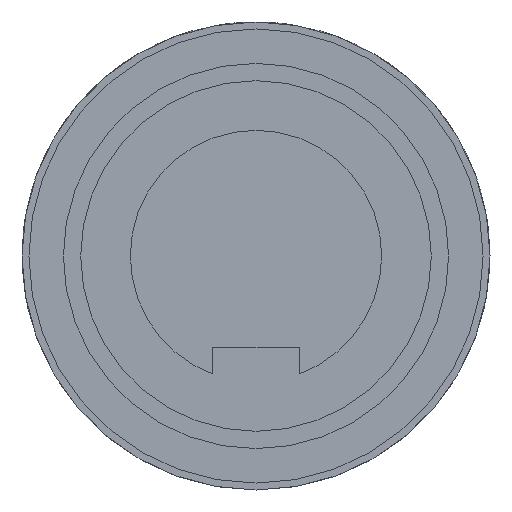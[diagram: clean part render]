
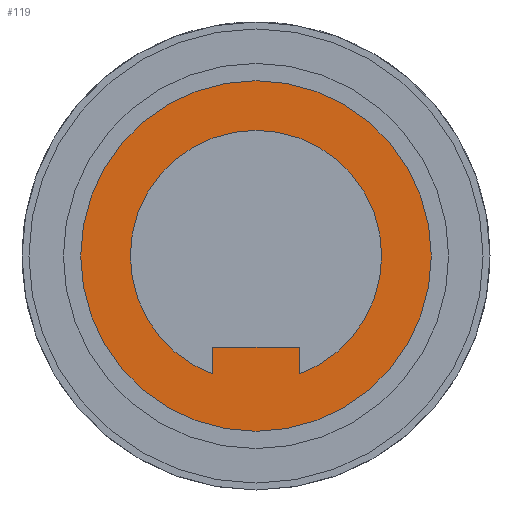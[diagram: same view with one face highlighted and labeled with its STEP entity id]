
A CAD part, front view. The second image highlights one B-rep face of the part: STEP entity #119.
In plain terms, the highlighted planar face has unit normal (0, -1, 0).
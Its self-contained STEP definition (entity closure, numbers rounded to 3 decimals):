
#48 = VECTOR ( 'NONE', #1929, 1000. ) ;
#67 = DIRECTION ( 'NONE',  ( 0., 0., 1. ) ) ;
#74 = AXIS2_PLACEMENT_3D ( 'NONE', #1285, #363, #1436 ) ;
#106 = DIRECTION ( 'NONE',  ( 0., 1., 0. ) ) ;
#114 = CARTESIAN_POINT ( 'NONE',  ( 0., 7., 0. ) ) ;
#115 = VERTEX_POINT ( 'NONE', #1439 ) ;
#119 = ADVANCED_FACE ( 'NONE', ( #249, #1424 ), #989, .T. ) ;
#236 = CARTESIAN_POINT ( 'NONE',  ( 2.5, 7., -5.25 ) ) ;
#249 = FACE_BOUND ( 'NONE', #1648, .T. ) ;
#252 = CIRCLE ( 'NONE', #74, 7.25 ) ;
#289 = DIRECTION ( 'NONE',  ( 0., 0., 1. ) ) ;
#296 = CIRCLE ( 'NONE', #1255, 7.25 ) ;
#316 = VERTEX_POINT ( 'NONE', #1818 ) ;
#327 = EDGE_CURVE ( 'NONE', #1673, #1730, #252, .T. ) ;
#345 = CIRCLE ( 'NONE', #687, 10.113 ) ;
#363 = DIRECTION ( 'NONE',  ( 0., 1., 0. ) ) ;
#458 = CARTESIAN_POINT ( 'NONE',  ( -2.5, 7., -6.805 ) ) ;
#486 = VERTEX_POINT ( 'NONE', #1559 ) ;
#521 = DIRECTION ( 'NONE',  ( 0., 0., -1. ) ) ;
#539 = VERTEX_POINT ( 'NONE', #1821 ) ;
#567 = EDGE_CURVE ( 'NONE', #539, #1673, #1507, .T. ) ;
#568 = VECTOR ( 'NONE', #67, 1000. ) ;
#571 = DIRECTION ( 'NONE',  ( 0., 1., 0. ) ) ;
#582 = LINE ( 'NONE', #1068, #48 ) ;
#634 = CARTESIAN_POINT ( 'NONE',  ( 0., 7., 7.25 ) ) ;
#662 = ORIENTED_EDGE ( 'NONE', *, *, #1378, .F. ) ;
#687 = AXIS2_PLACEMENT_3D ( 'NONE', #114, #1211, #289 ) ;
#704 = VECTOR ( 'NONE', #1106, 1000. ) ;
#801 = AXIS2_PLACEMENT_3D ( 'NONE', #1287, #1448, #521 ) ;
#817 = ORIENTED_EDGE ( 'NONE', *, *, #933, .T. ) ;
#924 = EDGE_LOOP ( 'NONE', ( #1430, #662 ) ) ;
#933 = EDGE_CURVE ( 'NONE', #115, #539, #582, .T. ) ;
#947 = CARTESIAN_POINT ( 'NONE',  ( -2.5, 7., -7.071 ) ) ;
#989 = PLANE ( 'NONE',  #801 ) ;
#1050 = ORIENTED_EDGE ( 'NONE', *, *, #567, .T. ) ;
#1053 = CARTESIAN_POINT ( 'NONE',  ( 0., 7., 0. ) ) ;
#1068 = CARTESIAN_POINT ( 'NONE',  ( 0., 7., -5.25 ) ) ;
#1079 = EDGE_CURVE ( 'NONE', #1730, #316, #296, .T. ) ;
#1091 = EDGE_CURVE ( 'NONE', #1167, #486, #345, .T. ) ;
#1106 = DIRECTION ( 'NONE',  ( 0., 0., -1. ) ) ;
#1167 = VERTEX_POINT ( 'NONE', #1670 ) ;
#1207 = DIRECTION ( 'NONE',  ( 0., 0., 1. ) ) ;
#1211 = DIRECTION ( 'NONE',  ( 0., 1., 0. ) ) ;
#1226 = AXIS2_PLACEMENT_3D ( 'NONE', #1493, #571, #1636 ) ;
#1255 = AXIS2_PLACEMENT_3D ( 'NONE', #1053, #106, #1207 ) ;
#1276 = EDGE_CURVE ( 'NONE', #316, #115, #1688, .T. ) ;
#1285 = CARTESIAN_POINT ( 'NONE',  ( 0., 7., 0. ) ) ;
#1287 = CARTESIAN_POINT ( 'NONE',  ( 0., 7., 8.681 ) ) ;
#1378 = EDGE_CURVE ( 'NONE', #486, #1167, #1917, .T. ) ;
#1424 = FACE_OUTER_BOUND ( 'NONE', #924, .T. ) ;
#1430 = ORIENTED_EDGE ( 'NONE', *, *, #1091, .F. ) ;
#1436 = DIRECTION ( 'NONE',  ( 0., 0., 1. ) ) ;
#1439 = CARTESIAN_POINT ( 'NONE',  ( 2.5, 7., -5.25 ) ) ;
#1447 = ORIENTED_EDGE ( 'NONE', *, *, #327, .T. ) ;
#1448 = DIRECTION ( 'NONE',  ( 0., -1., 0. ) ) ;
#1493 = CARTESIAN_POINT ( 'NONE',  ( 0., 7., 0. ) ) ;
#1507 = LINE ( 'NONE', #947, #704 ) ;
#1559 = CARTESIAN_POINT ( 'NONE',  ( 0., 7., -10.113 ) ) ;
#1636 = DIRECTION ( 'NONE',  ( 0., 0., 1. ) ) ;
#1648 = EDGE_LOOP ( 'NONE', ( #817, #1050, #1447, #1765, #1845 ) ) ;
#1670 = CARTESIAN_POINT ( 'NONE',  ( 0., 7., 10.113 ) ) ;
#1673 = VERTEX_POINT ( 'NONE', #458 ) ;
#1688 = LINE ( 'NONE', #236, #568 ) ;
#1730 = VERTEX_POINT ( 'NONE', #634 ) ;
#1765 = ORIENTED_EDGE ( 'NONE', *, *, #1079, .T. ) ;
#1818 = CARTESIAN_POINT ( 'NONE',  ( 2.5, 7., -6.805 ) ) ;
#1821 = CARTESIAN_POINT ( 'NONE',  ( -2.5, 7., -5.25 ) ) ;
#1845 = ORIENTED_EDGE ( 'NONE', *, *, #1276, .T. ) ;
#1917 = CIRCLE ( 'NONE', #1226, 10.113 ) ;
#1929 = DIRECTION ( 'NONE',  ( -1., 0., 0. ) ) ;
